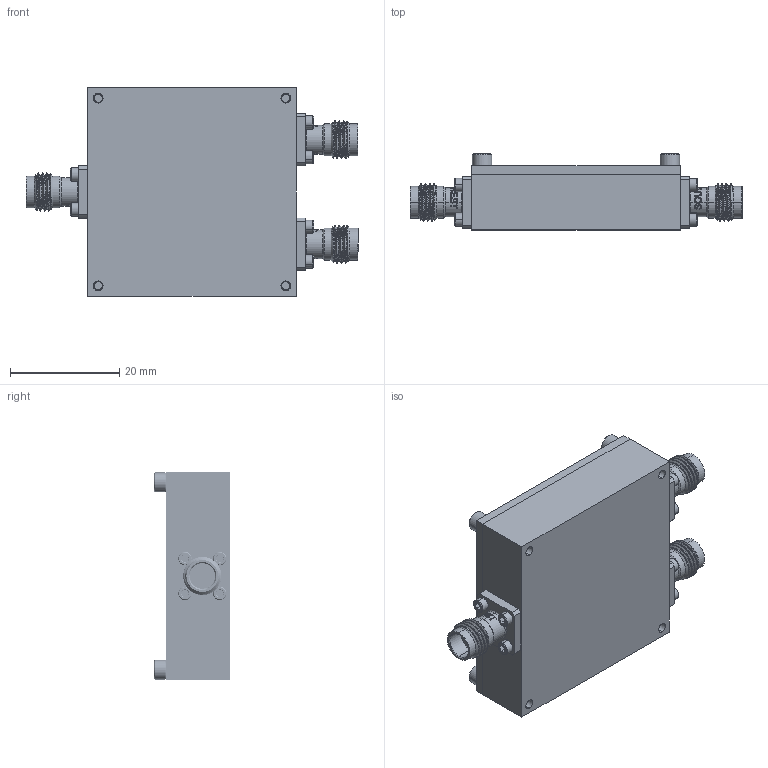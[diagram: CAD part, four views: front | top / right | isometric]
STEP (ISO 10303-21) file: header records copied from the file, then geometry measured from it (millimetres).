
FILE_DESCRIPTION (( 'STEP AP214' ), '1' );
FILE_NAME ('HL9407-JJJ.STEP', '2023-03-04T22:56:25', ( '' ), ( '' ), 'SwSTEP 2.0', 'SolidWorks 2023', '' );
FILE_SCHEMA (( 'AUTOMOTIVE_DESIGN' ));
Length unit declared in the file: millimetre
Products named in the file (6): HL9407-JJJ; 100118; 2-56 x 3-16 92196A076_18-8 Stainless Steel Socket Head Screw_92196A076; 1.85mm J 4H .375SQ; 0-80x1-8_Socket Head Cap Screw_92196A052_18-8 Stainless Steel Socket Head Screw_92196A052; 100006
Assembly tree (21 placements, depth 2):
  HL9407-JJJ
    100118
    100006
    1.85mm J 4H .375SQ  x3
    0-80x1-8_Socket Head Cap Screw_92196A052_18-8 Stainless Steel Socket Head Screw_92196A052  x12
    2-56 x 3-16 92196A076_18-8 Stainless Steel Socket Head Screw_92196A076  x4
Bounding box: 60.66 x 13.94 x 38.1 mm (x, y, z)
Volume: 11652.9 mm3; surface area: 11353.3 mm2
Topology: 21 solids, 21 shells, 1405 faces, 3501 edges, 2198 vertices
Faces by surface type: cylinder 548, plane 351, cone 330, bspline 132, torus 44
Entity records: 19781 total; most frequent: CARTESIAN_POINT 9236, ORIENTED_EDGE 1872, DIRECTION 1545, EDGE_CURVE 936, AXIS2_PLACEMENT_3D 626, VERTEX_POINT 594, EDGE_LOOP 438, ADVANCED_FACE 374
